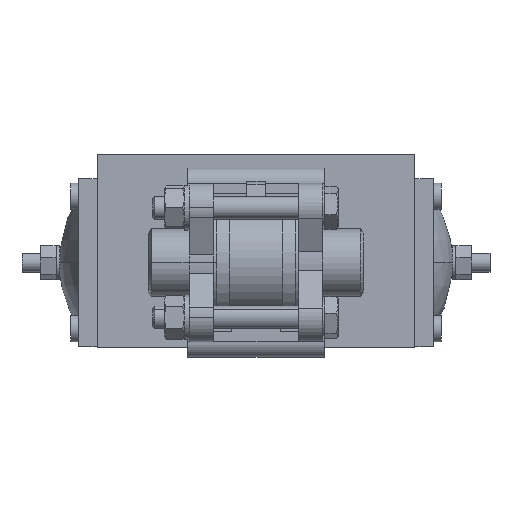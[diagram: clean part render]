
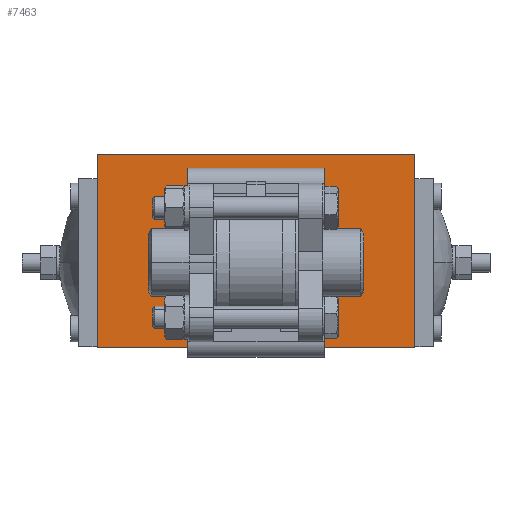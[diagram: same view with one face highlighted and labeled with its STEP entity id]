
A CAD part, front view. The second image highlights one B-rep face of the part: STEP entity #7463.
In plain terms, the highlighted planar face has unit normal (0, -1, 0).
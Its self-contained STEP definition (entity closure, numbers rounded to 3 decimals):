
#517 = CARTESIAN_POINT ( 'NONE',  ( -12.728, -22.5, 12.728 ) ) ;
#518 = DIRECTION ( 'NONE',  ( 0., -1., 0. ) ) ;
#519 = DIRECTION ( 'NONE',  ( 0., 0., -1. ) ) ;
#607 = CARTESIAN_POINT ( 'NONE',  ( 0., -22.5, 0. ) ) ;
#608 = DIRECTION ( 'NONE',  ( 0., -1., 0. ) ) ;
#609 = DIRECTION ( 'NONE',  ( 0., 0., -1. ) ) ;
#744 = CARTESIAN_POINT ( 'NONE',  ( 12.728, -22.5, 12.728 ) ) ;
#746 = DIRECTION ( 'NONE',  ( 0., -1., 0. ) ) ;
#748 = DIRECTION ( 'NONE',  ( 0., 0., -1. ) ) ;
#860 = CARTESIAN_POINT ( 'NONE',  ( 0., -22.5, 0. ) ) ;
#862 = DIRECTION ( 'NONE',  ( 0., -1., 0. ) ) ;
#863 = DIRECTION ( 'NONE',  ( 0., 0., -1. ) ) ;
#1065 = CARTESIAN_POINT ( 'NONE',  ( -22.5, -22.5, -42. ) ) ;
#1068 = CARTESIAN_POINT ( 'NONE',  ( 28.5, -22.5, -42. ) ) ;
#1075 = CARTESIAN_POINT ( 'NONE',  ( -22.5, -22.5, 42. ) ) ;
#1085 = CARTESIAN_POINT ( 'NONE',  ( 28.5, -22.5, 42. ) ) ;
#3012 = CARTESIAN_POINT ( 'NONE',  ( 12.728, -22.5, 14.828 ) ) ;
#3013 = CARTESIAN_POINT ( 'NONE',  ( 12.728, -22.5, 10.628 ) ) ;
#3016 = CARTESIAN_POINT ( 'NONE',  ( 12.728, -22.5, -10.628 ) ) ;
#3021 = CARTESIAN_POINT ( 'NONE',  ( 12.728, -22.5, -14.828 ) ) ;
#3024 = CARTESIAN_POINT ( 'NONE',  ( -12.728, -22.5, -10.628 ) ) ;
#3026 = CARTESIAN_POINT ( 'NONE',  ( -12.728, -22.5, -14.828 ) ) ;
#3032 = CARTESIAN_POINT ( 'NONE',  ( -12.728, -22.5, 14.828 ) ) ;
#3033 = CARTESIAN_POINT ( 'NONE',  ( -12.728, -22.5, 10.628 ) ) ;
#3065 = CARTESIAN_POINT ( 'NONE',  ( 0., -22.5, 10. ) ) ;
#3066 = CARTESIAN_POINT ( 'NONE',  ( 0., -22.5, -10. ) ) ;
#5246 = CARTESIAN_POINT ( 'NONE',  ( 12.728, -22.5, 12.728 ) ) ;
#5247 = DIRECTION ( 'NONE',  ( 0., -1., 0. ) ) ;
#5248 = DIRECTION ( 'NONE',  ( 0., 0., -1. ) ) ;
#5270 = CARTESIAN_POINT ( 'NONE',  ( 12.728, -22.5, -12.728 ) ) ;
#5271 = DIRECTION ( 'NONE',  ( 0., -1., 0. ) ) ;
#5272 = DIRECTION ( 'NONE',  ( 0., 0., -1. ) ) ;
#5281 = CARTESIAN_POINT ( 'NONE',  ( -12.728, -22.5, -12.728 ) ) ;
#5282 = DIRECTION ( 'NONE',  ( 0., -1., 0. ) ) ;
#5283 = DIRECTION ( 'NONE',  ( 0., 0., -1. ) ) ;
#5349 = EDGE_CURVE ( 'NONE', #6160, #6158, #10198, .T. ) ;
#5569 = EDGE_LOOP ( 'NONE', ( #7639, #7638 ) ) ;
#5702 = EDGE_LOOP ( 'NONE', ( #7637, #7636, #7635, #7634 ) ) ;
#5721 = EDGE_LOOP ( 'NONE', ( #7645, #7644 ) ) ;
#5737 = EDGE_LOOP ( 'NONE', ( #7641, #7640 ) ) ;
#5806 = EDGE_LOOP ( 'NONE', ( #7647, #7646 ) ) ;
#6146 = VERTEX_POINT ( 'NONE', #3012 ) ;
#6147 = VERTEX_POINT ( 'NONE', #3013 ) ;
#6150 = VERTEX_POINT ( 'NONE', #3016 ) ;
#6155 = VERTEX_POINT ( 'NONE', #3021 ) ;
#6158 = VERTEX_POINT ( 'NONE', #3024 ) ;
#6160 = VERTEX_POINT ( 'NONE', #3026 ) ;
#6166 = VERTEX_POINT ( 'NONE', #3032 ) ;
#6167 = VERTEX_POINT ( 'NONE', #3033 ) ;
#6200 = VERTEX_POINT ( 'NONE', #3065 ) ;
#6201 = VERTEX_POINT ( 'NONE', #3066 ) ;
#6481 = AXIS2_PLACEMENT_3D ( 'NONE', #607, #608, #609 ) ;
#6491 = CIRCLE ( 'NONE', #6481, 10. ) ;
#6521 = AXIS2_PLACEMENT_3D ( 'NONE', #517, #518, #519 ) ;
#6525 = CIRCLE ( 'NONE', #6521, 2.1 ) ;
#6529 = AXIS2_PLACEMENT_3D ( 'NONE', #5281, #5282, #5283 ) ;
#6534 = CIRCLE ( 'NONE', #6529, 2.1 ) ;
#6536 = AXIS2_PLACEMENT_3D ( 'NONE', #5270, #5271, #5272 ) ;
#6541 = CIRCLE ( 'NONE', #6536, 2.1 ) ;
#6546 = AXIS2_PLACEMENT_3D ( 'NONE', #5246, #5247, #5248 ) ;
#6550 = CIRCLE ( 'NONE', #6546, 2.1 ) ;
#6835 = EDGE_LOOP ( 'NONE', ( #7643, #7642 ) ) ;
#7436 = EDGE_CURVE ( 'NONE', #12682, #12687, #13621, .T. ) ;
#7463 = ADVANCED_FACE ( 'NONE', ( #13762, #13758, #13765, #13767, #13761, #13763 ), #13764, .T. ) ;
#7634 = ORIENTED_EDGE ( 'NONE', *, *, #9031, .T. ) ;
#7635 = ORIENTED_EDGE ( 'NONE', *, *, #11361, .F. ) ;
#7636 = ORIENTED_EDGE ( 'NONE', *, *, #7436, .F. ) ;
#7637 = ORIENTED_EDGE ( 'NONE', *, *, #11350, .T. ) ;
#7638 = ORIENTED_EDGE ( 'NONE', *, *, #15157, .F. ) ;
#7639 = ORIENTED_EDGE ( 'NONE', *, *, #11409, .F. ) ;
#7640 = ORIENTED_EDGE ( 'NONE', *, *, #15127, .F. ) ;
#7641 = ORIENTED_EDGE ( 'NONE', *, *, #11370, .F. ) ;
#7642 = ORIENTED_EDGE ( 'NONE', *, *, #15121, .F. ) ;
#7643 = ORIENTED_EDGE ( 'NONE', *, *, #5349, .F. ) ;
#7644 = ORIENTED_EDGE ( 'NONE', *, *, #15117, .F. ) ;
#7645 = ORIENTED_EDGE ( 'NONE', *, *, #9047, .F. ) ;
#7646 = ORIENTED_EDGE ( 'NONE', *, *, #15109, .F. ) ;
#7647 = ORIENTED_EDGE ( 'NONE', *, *, #11389, .F. ) ;
#8215 = AXIS2_PLACEMENT_3D ( 'NONE', #13768, #13769, #13770 ) ;
#8278 = VECTOR ( 'NONE', #13626, 1000. ) ;
#8613 = CARTESIAN_POINT ( 'NONE',  ( -12.728, -22.5, -12.728 ) ) ;
#8614 = DIRECTION ( 'NONE',  ( 0., -1., 0. ) ) ;
#8615 = DIRECTION ( 'NONE',  ( 0., 0., -1. ) ) ;
#9031 = EDGE_CURVE ( 'NONE', #12675, #12677, #9714, .T. ) ;
#9047 = EDGE_CURVE ( 'NONE', #6155, #6150, #11219, .T. ) ;
#9714 = LINE ( 'NONE', #9721, #11238 ) ;
#9721 = CARTESIAN_POINT ( 'NONE',  ( -22.5, -22.5, -42. ) ) ;
#9723 = DIRECTION ( 'NONE',  ( 1., 0., 0. ) ) ;
#9783 = CARTESIAN_POINT ( 'NONE',  ( 12.728, -22.5, -12.728 ) ) ;
#9784 = DIRECTION ( 'NONE',  ( 0., -1., 0. ) ) ;
#9785 = DIRECTION ( 'NONE',  ( 0., 0., -1. ) ) ;
#9902 = LINE ( 'NONE', #9910, #11188 ) ;
#9910 = CARTESIAN_POINT ( 'NONE',  ( 28.5, -22.5, -42. ) ) ;
#9911 = DIRECTION ( 'NONE',  ( 0., 0., 1. ) ) ;
#9940 = LINE ( 'NONE', #9942, #11175 ) ;
#9942 = CARTESIAN_POINT ( 'NONE',  ( -22.5, -22.5, -42. ) ) ;
#9943 = DIRECTION ( 'NONE',  ( 0., 0., 1. ) ) ;
#9970 = CARTESIAN_POINT ( 'NONE',  ( -12.728, -22.5, 12.728 ) ) ;
#9971 = DIRECTION ( 'NONE',  ( 0., -1., 0. ) ) ;
#9972 = DIRECTION ( 'NONE',  ( 0., 0., -1. ) ) ;
#10077 = AXIS2_PLACEMENT_3D ( 'NONE', #8613, #8614, #8615 ) ;
#10198 = CIRCLE ( 'NONE', #10077, 2.1 ) ;
#11102 = AXIS2_PLACEMENT_3D ( 'NONE', #860, #862, #863 ) ;
#11104 = CIRCLE ( 'NONE', #11102, 10. ) ;
#11132 = AXIS2_PLACEMENT_3D ( 'NONE', #744, #746, #748 ) ;
#11134 = CIRCLE ( 'NONE', #11132, 2.1 ) ;
#11162 = AXIS2_PLACEMENT_3D ( 'NONE', #9970, #9971, #9972 ) ;
#11166 = CIRCLE ( 'NONE', #11162, 2.1 ) ;
#11175 = VECTOR ( 'NONE', #9943, 1000. ) ;
#11188 = VECTOR ( 'NONE', #9911, 1000. ) ;
#11213 = AXIS2_PLACEMENT_3D ( 'NONE', #9783, #9784, #9785 ) ;
#11219 = CIRCLE ( 'NONE', #11213, 2.1 ) ;
#11238 = VECTOR ( 'NONE', #9723, 1000. ) ;
#11350 = EDGE_CURVE ( 'NONE', #12677, #12687, #9902, .T. ) ;
#11361 = EDGE_CURVE ( 'NONE', #12675, #12682, #9940, .T. ) ;
#11370 = EDGE_CURVE ( 'NONE', #6167, #6166, #11166, .T. ) ;
#11389 = EDGE_CURVE ( 'NONE', #6147, #6146, #11134, .T. ) ;
#11409 = EDGE_CURVE ( 'NONE', #6201, #6200, #11104, .T. ) ;
#12675 = VERTEX_POINT ( 'NONE', #1065 ) ;
#12677 = VERTEX_POINT ( 'NONE', #1068 ) ;
#12682 = VERTEX_POINT ( 'NONE', #1075 ) ;
#12687 = VERTEX_POINT ( 'NONE', #1085 ) ;
#13565 = CARTESIAN_POINT ( 'NONE',  ( -22.5, -22.5, 42. ) ) ;
#13621 = LINE ( 'NONE', #13565, #8278 ) ;
#13626 = DIRECTION ( 'NONE',  ( 1., 0., 0. ) ) ;
#13758 = FACE_BOUND ( 'NONE', #5721, .T. ) ;
#13761 = FACE_BOUND ( 'NONE', #5569, .T. ) ;
#13762 = FACE_BOUND ( 'NONE', #5806, .T. ) ;
#13763 = FACE_OUTER_BOUND ( 'NONE', #5702, .T. ) ;
#13764 = PLANE ( 'NONE',  #8215 ) ;
#13765 = FACE_BOUND ( 'NONE', #6835, .T. ) ;
#13767 = FACE_BOUND ( 'NONE', #5737, .T. ) ;
#13768 = CARTESIAN_POINT ( 'NONE',  ( -22.5, -22.5, -42. ) ) ;
#13769 = DIRECTION ( 'NONE',  ( 0., -1., 0. ) ) ;
#13770 = DIRECTION ( 'NONE',  ( 0., 0., -1. ) ) ;
#15109 = EDGE_CURVE ( 'NONE', #6146, #6147, #6550, .T. ) ;
#15117 = EDGE_CURVE ( 'NONE', #6150, #6155, #6541, .T. ) ;
#15121 = EDGE_CURVE ( 'NONE', #6158, #6160, #6534, .T. ) ;
#15127 = EDGE_CURVE ( 'NONE', #6166, #6167, #6525, .T. ) ;
#15157 = EDGE_CURVE ( 'NONE', #6200, #6201, #6491, .T. ) ;
